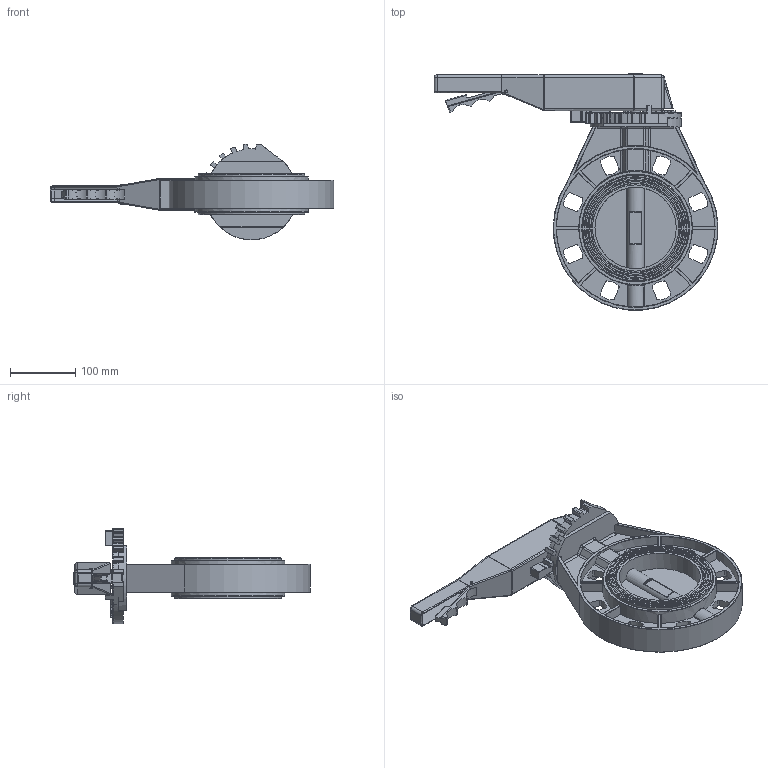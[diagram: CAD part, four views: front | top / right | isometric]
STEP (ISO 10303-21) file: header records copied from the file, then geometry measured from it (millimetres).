
FILE_DESCRIPTION(('STEP AP242'), '1');
FILE_NAME('WBV4242E-2W-Fb-H 青蜮铕 滂耜钼 DN.ru 捏125 畜10', '', ('UNSPECIFIED'), ('UNSPECIFIED'), 'C3D Converter', 'C3D Toolkit', '');
FILE_SCHEMA(('AP242_MANAGED_MODEL_BASED_3D_ENGINEERING_MIM_LF { 1 0 10303 442 1 1 4 }'));
Length unit declared in the file: millimetre
Products named in the file (1): WBV4242E-2W-Fb-H
Bounding box: 436.61 x 363.43 x 147.09 mm (x, y, z)
Volume: 1805186.6 mm3; surface area: 489882.4 mm2
Topology: 1 solids, 1 shells, 990 faces, 2529 edges, 1577 vertices
Faces by surface type: plane 372, cylinder 281, bspline 254, torus 77, sphere 6
Full cylindrical faces by diameter (mm): 15 x1, 27 x2, 125 x2, 164.2 x1, 165 x1, 175 x2
Entity records: 73559 total; most frequent: CARTESIAN_POINT 43359, ORIENTED_EDGE 4988, DIRECTION 3960, EDGE_CURVE 2494, VERTEX_POINT 1577, AXIS2_PLACEMENT_3D 1369, LINE 1222, VECTOR 1222
